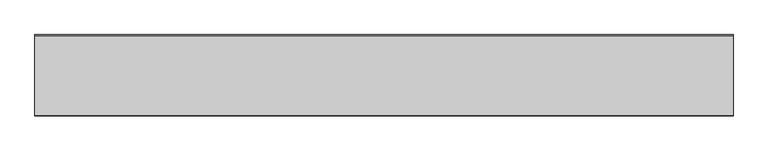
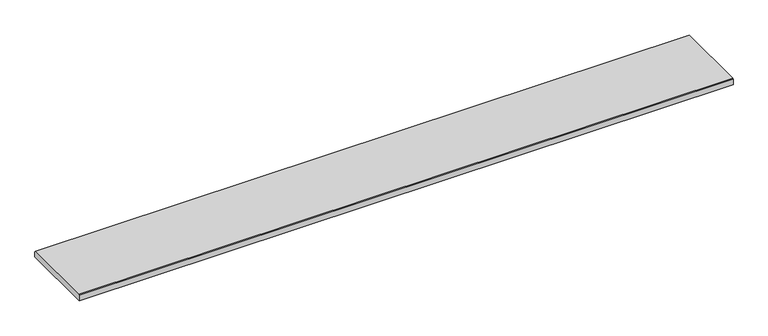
"""IFC4 building model written with IfcOpenShell, lengths in millimetres: proxy geometry."""

import ifcopenshell
import ifcopenshell.guid

model = None  # the IFC model being written
_history = None  # IfcOwnerHistory: only IFC2X3 demands one
_inside = {}  # id of a spatial element -> (the spatial element, [elements in it])
_under = {}  # id of a project, library or spatial element -> (it, [spatial elements below it])
_declared = {}  # id of a project -> (the project, [libraries it declares])
_typed = {}  # id of a type object -> (the type object, [elements of that type])
_made_of = {}  # id of a material, layer set ... -> (it, [elements and type objects made of it])


def new_model(schema):
    """Start an empty IFC model of exactly this schema.

    Asked for "IFC4X3", IfcOpenShell would pick the latest addendum, in which some entities
    have other attributes; the version numbers below select the first issue.
    IFC2X3 requires an IfcOwnerHistory on every rooted entity: one is made here for all.
    """
    global model, _history
    if schema == "IFC4X3":
        model = ifcopenshell.file(schema_version=(4, 3, 0, 0))
    else:
        model = ifcopenshell.file(schema=schema)
    _inside.clear()
    _under.clear()
    _declared.clear()
    _typed.clear()
    _made_of.clear()
    _history = None
    if model.schema == "IFC2X3":
        org = make("IfcOrganization", Name="unknown")
        user = make(
            "IfcPersonAndOrganization",
            ThePerson=make("IfcPerson", FamilyName="unknown"),
            TheOrganization=org,
        )
        app = make(
            "IfcApplication",
            ApplicationDeveloper=org,
            Version="unknown",
            ApplicationFullName="unknown",
            ApplicationIdentifier="unknown",
        )
        _history = make(
            "IfcOwnerHistory",
            OwningUser=user,
            OwningApplication=app,
            ChangeAction="ADDED",
            CreationDate=0,
        )
    return model


def make(cls, **values):
    """One entity of the class cls with the attributes given. An attribute that is None is left unset."""
    return model.create_entity(
        cls, **{name: value for name, value in values.items() if value is not None}
    )


def rooted(cls, **values):
    """An entity with a GlobalId (a new one), such as an element, a storey or a relation."""
    return make(cls, GlobalId=ifcopenshell.guid.new(), OwnerHistory=_history, **values)


def si_unit(unit_type, name, prefix=None):
    """IfcSIUnit, for example si_unit("LENGTHUNIT", "METRE", prefix="MILLI")."""
    return make("IfcSIUnit", UnitType=unit_type, Prefix=prefix, Name=name)


def assignment(units):
    """IfcUnitAssignment: the units of a project."""
    return None if units is None else make("IfcUnitAssignment", Units=units)


def point(xyz):
    """IfcCartesianPoint."""
    return None if xyz is None else make("IfcCartesianPoint", Coordinates=xyz)


def direction(xyz):
    """IfcDirection."""
    return None if xyz is None else make("IfcDirection", DirectionRatios=xyz)


def frame(location, z_axis=None, x_axis=None):
    """IfcAxis2Placement3D, a coordinate frame: its origin and axes. An axis left out is left unset."""
    return make(
        "IfcAxis2Placement3D",
        Location=point(location),
        Axis=direction(z_axis),
        RefDirection=direction(x_axis),
    )


def origin():
    """The frame at (0, 0, 0) with its axes left unset."""
    return frame((0.0, 0.0, 0.0))


def place(relative_to, where):
    """IfcLocalPlacement: puts the frame where relative to a parent placement (None: the world)."""
    return make(
        "IfcLocalPlacement", PlacementRelTo=relative_to, RelativePlacement=where
    )


def context(
    kind, dimensions, precision=None, world=None, true_north=None, identifier=None
):
    """IfcGeometricRepresentationContext, for example the 3D "Model" context."""
    return make(
        "IfcGeometricRepresentationContext",
        ContextIdentifier=identifier,
        ContextType=kind,
        CoordinateSpaceDimension=dimensions,
        Precision=precision,
        WorldCoordinateSystem=world,
        TrueNorth=true_north,
    )


def project(units=None, contexts=None):
    """IfcProject with its units and contexts."""
    return rooted(
        "IfcProject",
        Name="project",
        RepresentationContexts=contexts,
        UnitsInContext=assignment(units),
    )


def spatial(cls, under=None, at=None, **own):
    """A site, building, storey or space (cls), placed at a placement, below another one or the project."""
    s = rooted(cls, ObjectPlacement=at, **own)
    if under is not None:
        _under.setdefault(under.id(), (under, []))[1].append(s)
    return s


def polyline(points):
    """IfcPolyline through the points."""
    return make("IfcPolyline", Points=[point(p) for p in points])


def outline(outer, holes=None, kind="AREA"):
    """IfcArbitraryClosedProfileDef: a profile drawn as a closed curve; with holes, ...WithVoids."""
    if holes is None:
        return make("IfcArbitraryClosedProfileDef", ProfileType=kind, OuterCurve=outer)
    return make(
        "IfcArbitraryProfileDefWithVoids",
        ProfileType=kind,
        OuterCurve=outer,
        InnerCurves=holes,
    )


def extrude(swept, where, along, depth):
    """IfcExtrudedAreaSolid: the profile swept, set in the frame where, extruded along a direction by depth."""
    return make(
        "IfcExtrudedAreaSolid",
        SweptArea=swept,
        Position=where,
        ExtrudedDirection=direction(along),
        Depth=depth,
    )


def shape(context_of_items, identifier, shape_type, items):
    """IfcShapeRepresentation: the items that make up one representation, for example the "Body"."""
    return make(
        "IfcShapeRepresentation",
        ContextOfItems=context_of_items,
        RepresentationIdentifier=identifier,
        RepresentationType=shape_type,
        Items=items,
    )


def source(mapping_origin, context_of_items, identifier, shape_type, items):
    """IfcRepresentationMap: a shape defined once, which mapped items show again and again."""
    return make(
        "IfcRepresentationMap",
        MappingOrigin=mapping_origin,
        MappedRepresentation=shape(context_of_items, identifier, shape_type, items),
    )


def transform(
    local_origin,
    x_axis=None,
    y_axis=None,
    z_axis=None,
    scale=None,
    scale2=None,
    scale3=None,
    uniform=True,
):
    """IfcCartesianTransformationOperator3D, or its non-uniform kind. x_axis, y_axis, z_axis: its Axis1, 2, 3."""
    if uniform:
        return make(
            "IfcCartesianTransformationOperator3D",
            Axis1=direction(x_axis),
            Axis2=direction(y_axis),
            LocalOrigin=point(local_origin),
            Scale=scale,
            Axis3=direction(z_axis),
        )
    return make(
        "IfcCartesianTransformationOperator3DnonUniform",
        Axis1=direction(x_axis),
        Axis2=direction(y_axis),
        LocalOrigin=point(local_origin),
        Scale=scale,
        Axis3=direction(z_axis),
        Scale2=scale2,
        Scale3=scale3,
    )


def mapped(mapping_source, mapping_target):
    """IfcMappedItem: shows the shape of a source again, moved by a transform."""
    return make(
        "IfcMappedItem", MappingSource=mapping_source, MappingTarget=mapping_target
    )


def made_of(thing, what):
    """Note that an element or type object is made of a material, layer set ...; save() writes the relation."""
    if what is not None:
        _made_of.setdefault(what.id(), (what, []))[1].append(thing)
    return thing


def element(
    cls,
    number,
    at=None,
    inside=None,
    cuts=None,
    type_object=None,
    material=None,
    context=None,
    identifier="Body",
    shape_type=None,
    held_by="IfcProductDefinitionShape",
    body=None,
    shapes=None,
    **own,
):
    """One element of the class cls, such as IfcWall. Its Tag is "e" and its number.

    at: its placement. inside: the storey or other place that contains it. cuts: it is an
    opening in that element (IfcRelVoidsElement). A single representation is given by context,
    identifier, shape_type and body (its items); several are given by shapes. held_by: the class
    of the entity that holds the representations. save() writes the other relations.
    """
    e = rooted(cls, Tag="e%d" % number, ObjectPlacement=at, **own)
    if body is not None:
        shapes = [shape(context, identifier, shape_type, body)]
    if shapes is not None:
        e.Representation = make(held_by, Representations=shapes)
    if inside is not None:
        _inside.setdefault(inside.id(), (inside, []))[1].append(e)
    if cuts is not None:
        rooted(
            "IfcRelVoidsElement", RelatingBuildingElement=cuts, RelatedOpeningElement=e
        )
    if type_object is not None:
        _typed.setdefault(type_object.id(), (type_object, []))[1].append(e)
    return made_of(e, material)


def aggregate(whole, parts):
    """IfcRelAggregates: a whole, such as a stair, and the parts it consists of."""
    return rooted("IfcRelAggregates", RelatingObject=whole, RelatedObjects=parts)


def save(model, path):
    """Write the relations noted so far, then the file.

    IfcRelAggregates (storeys below a building ...), IfcRelContainedInSpatialStructure (elements
    in a storey), IfcRelDefinesByType, IfcRelAssociatesMaterial and IfcRelDeclares: one each for
    every whole, place, type object, material and project.
    """
    for whole, parts in _under.values():
        aggregate(whole, parts)
    for where, things in _inside.values():
        rooted(
            "IfcRelContainedInSpatialStructure",
            RelatedElements=things,
            RelatingStructure=where,
        )
    for kind, things in _typed.values():
        rooted("IfcRelDefinesByType", RelatedObjects=things, RelatingType=kind)
    for what, things in _made_of.values():
        rooted("IfcRelAssociatesMaterial", RelatedObjects=things, RelatingMaterial=what)
    for by, libraries in _declared.values():
        rooted("IfcRelDeclares", RelatingContext=by, RelatedDefinitions=libraries)
    model.write(path)


def generic_models_9c10f25b(model_context):
    return source(origin(), model_context, "Body", "SweptSolid", [
        extrude(outline(polyline([(0.0, 20.868936), (2.245064, 23.114), (282.488936, 23.114), (284.734, 20.868936), (284.734, 0.0), (0.0, 0.0), (0.0, 20.868936)])), frame((0.0, 0.0, 0.0), z_axis=(1.0, 0.0, 0.0), x_axis=(0.0, 1.0, 0.0)), (0.0, 0.0, 1.0), 2438.4),
    ])


if __name__ == "__main__":
    model = new_model("IFC4")
    model_context = context("Model", 3, world=origin())
    ifc_project = project(units=[si_unit("LENGTHUNIT", "METRE", prefix="MILLI")], contexts=[model_context])
    site = spatial("IfcSite", under=ifc_project)
    building = spatial("IfcBuilding", under=site)
    placement = place(None, origin())
    generic_models_shape = generic_models_9c10f25b(model_context)
    element("IfcBuildingElementProxy", 1, Name="540 Series Reversible Trim (Fiber) : 540 Series Reversible Trim (Fiber) - 11.21\"", ObjectType="540 Series Reversible Trim (Fiber) : 540 Series Reversible Trim (Fiber) - 11.21\"", at=placement, inside=building, context=model_context, shape_type="MappedRepresentation", body=[
        mapped(generic_models_shape, transform((0.0, 0.0, 0.0), x_axis=(1.0, 0.0, 0.0), y_axis=(0.0, 1.0, 0.0), z_axis=(0.0, 0.0, 1.0))),
    ])
    save(model, "model.ifc")
